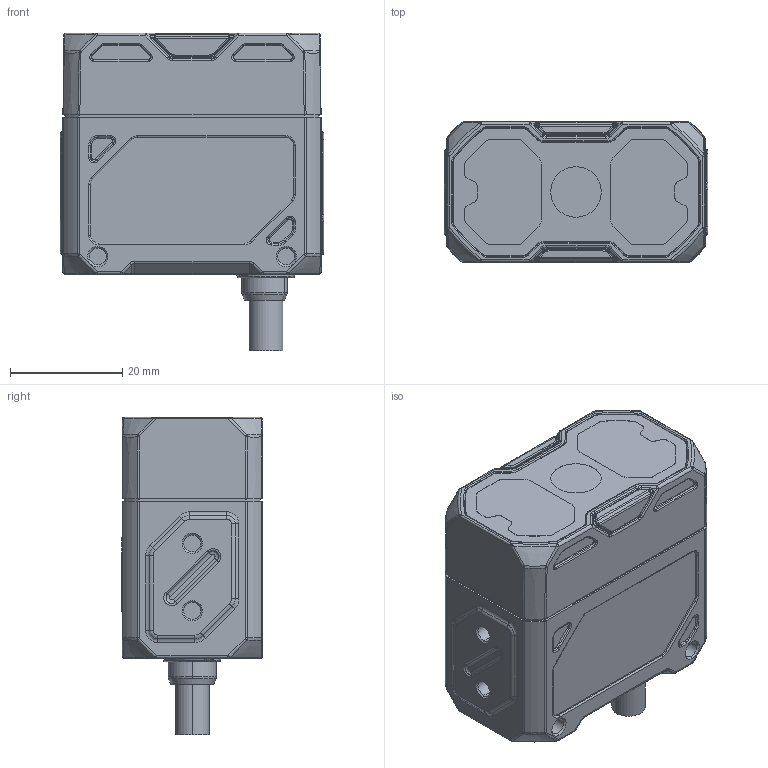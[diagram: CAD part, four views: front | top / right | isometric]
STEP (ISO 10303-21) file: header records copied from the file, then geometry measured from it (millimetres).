
FILE_DESCRIPTION (( 'STEP AP203' ), '1' );
FILE_NAME ('VS800P假蚾俋倛芞.STEP', '2024-01-04T10:03:07', ( '' ), ( '' ), 'SwSTEP 2.0', 'SolidWorks 2018', '' );
FILE_SCHEMA (( 'CONFIG_CONTROL_DESIGN' ));
Products named in the file (1): VS800P假蚾俋倛芞
Bounding box: 47 x 25.1 x 56.6 mm (x, y, z)
Volume: 48743 mm3; surface area: 15445.3 mm2
Topology: 11 solids, 19 shells, 1302 faces, 3124 edges, 1881 vertices
Faces by surface type: bspline 408, cylinder 380, plane 321, torus 95, cone 82, sphere 16
Entity records: 47416 total; most frequent: CARTESIAN_POINT 19944, ORIENTED_EDGE 6208, DIRECTION 5107, EDGE_CURVE 3104, AXIS2_PLACEMENT_3D 1942, VERTEX_POINT 1881, EDGE_LOOP 1345, ADVANCED_FACE 1302
